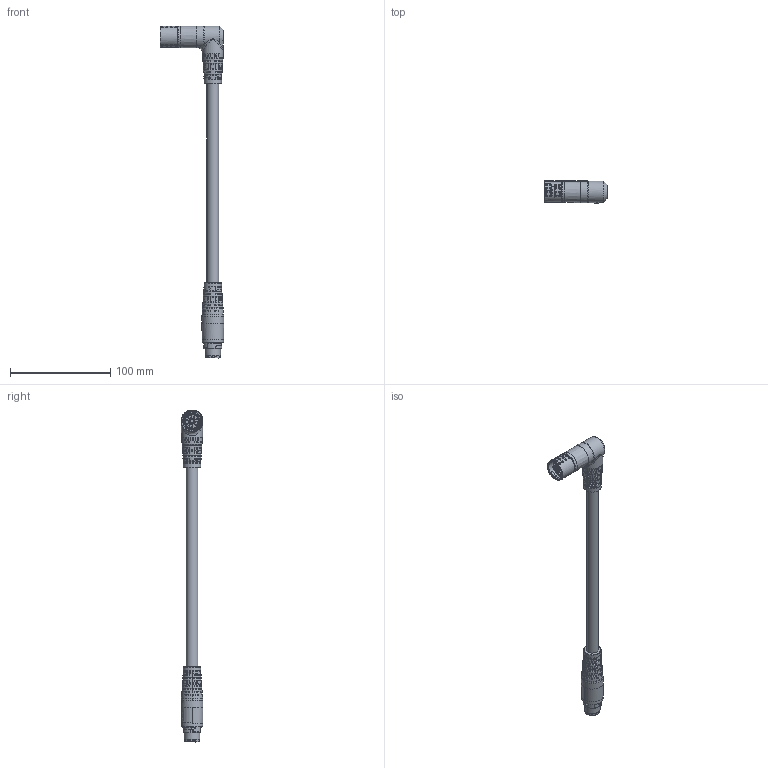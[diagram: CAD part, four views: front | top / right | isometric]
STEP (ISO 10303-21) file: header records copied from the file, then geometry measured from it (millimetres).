
FILE_DESCRIPTION (( 'STEP AP203' ), '1' );
FILE_NAME ('1162696_W-TEC_15M_STI_BU-90°R_STEP.STEP', '2023-09-06T05:53:06', ( '' ), ( '' ), 'SwSTEP 2.0', 'SolidWorks 2021', '' );
FILE_SCHEMA (( 'CONFIG_CONTROL_DESIGN' ));
Length unit declared in the file: millimetre
Products named in the file (1): 1162696_W-TEC_15M_STI_BU-90訌_STEP
Bounding box: 63.15 x 21.84 x 330.44 mm (x, y, z)
Surface area: 23912.7 mm2 (no closed solid volume)
Topology: 0 solids, 32 shells, 663 faces, 2956 edges, 2133 vertices
Faces by surface type: bspline 343, plane 138, cylinder 113, cone 60, torus 9
Full cylindrical faces by diameter (mm): 1.6 x3, 3.3 x6, 4.2 x3, 4.4 x3, 11.6 x1, 15.2 x1, 15.4 x1, 16.8 x1, 17.384 x1, 17.397 x1, 18.4 x1, 21.038 x1, 21.24 x1, 21.72 x2
Entity records: 51617 total; most frequent: CARTESIAN_POINT 33366, ORIENTED_EDGE 4087, EDGE_CURVE 2837, DIRECTION 2411, VERTEX_POINT 2105, B_SPLINE_CURVE_WITH_KNOTS 1415, AXIS2_PLACEMENT_3D 897, EDGE_LOOP 791
